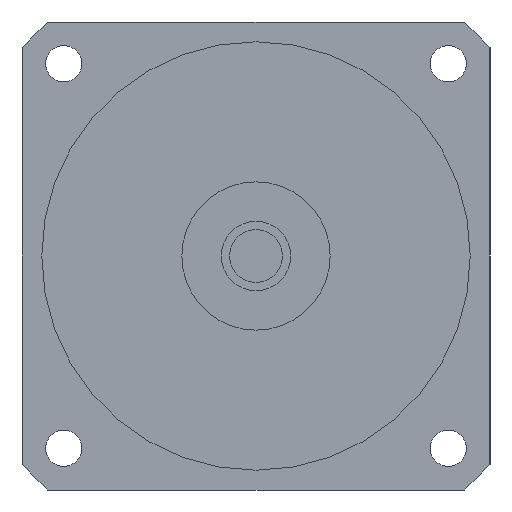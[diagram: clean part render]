
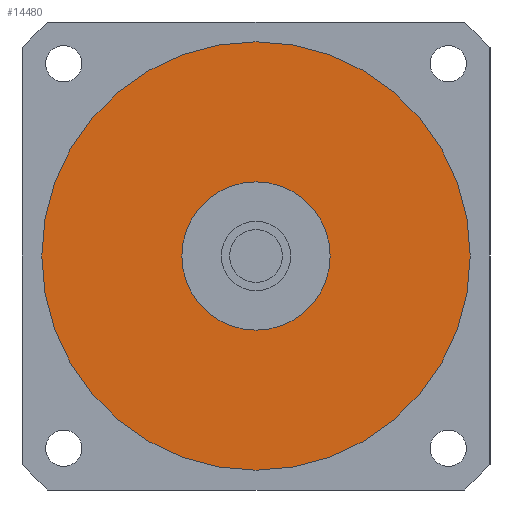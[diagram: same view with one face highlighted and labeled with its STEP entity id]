
A CAD part, left-side view. The second image highlights one B-rep face of the part: STEP entity #14480.
In plain terms, the highlighted planar face has unit normal (-1, 0, 0) as drawn and (0, 0, -1) by its records, which use the part's own axes.
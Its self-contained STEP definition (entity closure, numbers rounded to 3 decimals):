
#13960=CARTESIAN_POINT('',(-65.,0.,-38.7));
#13970=VERTEX_POINT('',#13960);
#14050=CARTESIAN_POINT('',(65.,0.,-38.7));
#14060=VERTEX_POINT('',#14050);
#14090=CARTESIAN_POINT('',(0.,0.,
-38.7));
#14100=DIRECTION('',(0.,0.,1.));
#14110=DIRECTION('',(1.,0.,0.));
#14120=AXIS2_PLACEMENT_3D('',#14090,#14100,#14110);
#14130=CIRCLE('',#14120,65.);
#14140=EDGE_CURVE('',#13970,#14060,#14130,.T.);
#14190=CARTESIAN_POINT('',(0.,0.,
-38.7));
#14200=DIRECTION('',(0.,0.,1.));
#14210=DIRECTION('',(-1.,0.,0.));
#14220=AXIS2_PLACEMENT_3D('',#14190,#14200,#14210);
#14230=PLANE('',#14220);
#14240=CARTESIAN_POINT('',(0.,0.,
-38.7));
#14250=DIRECTION('',(0.,0.,1.));
#14260=DIRECTION('',(0.,1.,0.));
#14270=AXIS2_PLACEMENT_3D('',#14240,#14250,#14260);
#14280=CIRCLE('',#14270,22.5);
#14290=CARTESIAN_POINT('',(-22.5,0.,-38.7));
#14300=VERTEX_POINT('',#14290);
#14310=CARTESIAN_POINT('',(22.5,0.,-38.7));
#14320=VERTEX_POINT('',#14310);
#14330=EDGE_CURVE('',#14300,#14320,#14280,.T.);
#14340=ORIENTED_EDGE('',*,*,#14330,.T.);
#14350=CARTESIAN_POINT('',(0.,22.5,-38.7));
#14360=VERTEX_POINT('',#14350);
#14370=EDGE_CURVE('',#14360,#14300,#14280,.T.);
#14380=ORIENTED_EDGE('',*,*,#14370,.T.);
#14390=EDGE_CURVE('',#14320,#14360,#14280,.T.);
#14400=ORIENTED_EDGE('',*,*,#14390,.T.);
#14410=EDGE_LOOP('',(#14400,#14380,#14340));
#14420=FACE_BOUND('',#14410,.T.);
#14430=EDGE_CURVE('',#14060,#13970,#14130,.T.);
#14440=ORIENTED_EDGE('',*,*,#14430,.F.);
#14450=ORIENTED_EDGE('',*,*,#14140,.F.);
#14460=EDGE_LOOP('',(#14450,#14440));
#14470=FACE_OUTER_BOUND('',#14460,.T.);
#14480=ADVANCED_FACE('',(#14420,#14470),#14230,.F.);
